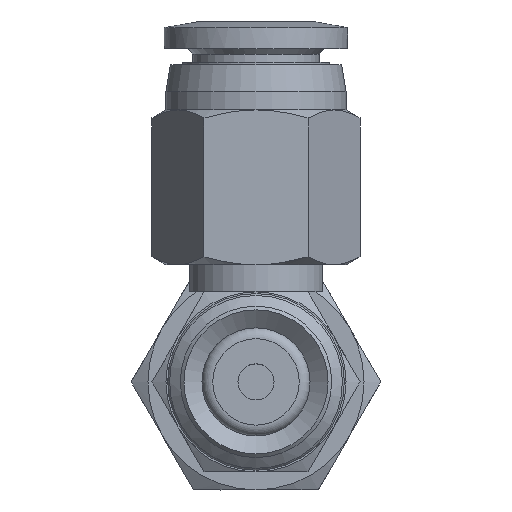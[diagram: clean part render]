
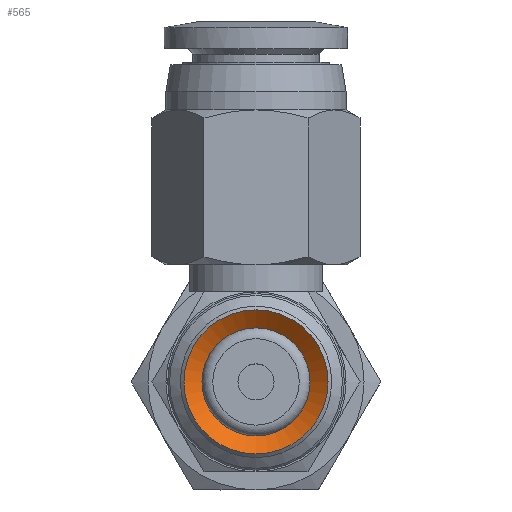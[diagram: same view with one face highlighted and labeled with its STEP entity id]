
A CAD part, front view. The second image highlights one B-rep face of the part: STEP entity #565.
In plain terms, the highlighted conical face has half-angle 52 degrees and reference radius 3 mm.
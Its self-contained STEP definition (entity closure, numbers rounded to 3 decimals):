
#565=ADVANCED_FACE('',(#888,#889),#890,.F.);
#888=FACE_BOUND('',#1290,.T.);
#889=FACE_OUTER_BOUND('',#1291,.T.);
#890=CONICAL_SURFACE('',#1292,3.0,0.908);
#1290=EDGE_LOOP('',(#2374));
#1291=EDGE_LOOP('',(#2375));
#1292=AXIS2_PLACEMENT_3D('',#2376,#2377,#2378);
#2374=ORIENTED_EDGE('',*,*,#2902,.F.);
#2375=ORIENTED_EDGE('',*,*,#2892,.T.);
#2376=CARTESIAN_POINT('',(0.0,7.741,0.));
#2377=DIRECTION('',(-0.0,-1.0,0.));
#2378=DIRECTION('',(0.0,0.,-1.0));
#2892=EDGE_CURVE('',#3316,#3316,#3317,.T.);
#2902=EDGE_CURVE('',#3336,#3336,#3337,.T.);
#3316=VERTEX_POINT('',#4236);
#3317=CIRCLE('',#4237,4.0);
#3336=VERTEX_POINT('',#4256);
#3337=CIRCLE('',#4257,3.0);
#4236=CARTESIAN_POINT('',(0.0,6.96,-4.0));
#4237=AXIS2_PLACEMENT_3D('',#4992,#4993,#4994);
#4256=CARTESIAN_POINT('',(0.0,7.741,-3.0));
#4257=AXIS2_PLACEMENT_3D('',#5022,#5023,#5024);
#4992=CARTESIAN_POINT('',(0.0,6.96,0.0));
#4993=DIRECTION('',(0.0,-1.0,0.));
#4994=DIRECTION('',(0.0,0.,-1.0));
#5022=CARTESIAN_POINT('',(0.0,7.741,0.));
#5023=DIRECTION('',(0.0,-1.0,0.));
#5024=DIRECTION('',(0.0,0.,-1.0));
